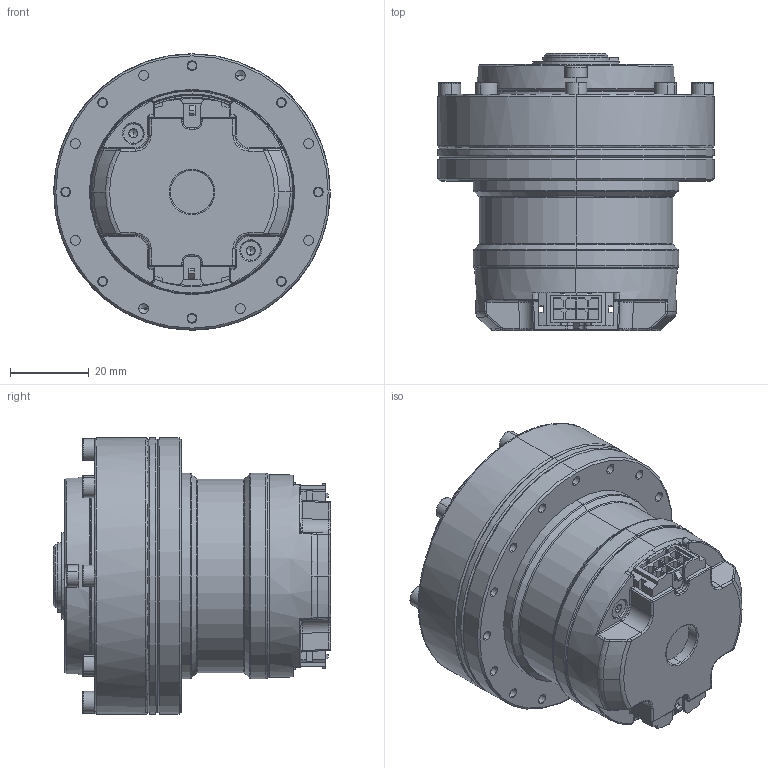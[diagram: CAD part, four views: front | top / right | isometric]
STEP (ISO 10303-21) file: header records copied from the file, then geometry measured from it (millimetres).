
FILE_DESCRIPTION (( 'STEP AP214' ), '1' );
FILE_NAME ('QddPro_3510_51_703D_v2.2.0.STEP', '2019-05-07T08:08:35', ( 'Microsoft' ), ( 'Microsoft' ), 'SwSTEP 2.0', 'SolidWorks 2018', '' );
FILE_SCHEMA (( 'AUTOMOTIVE_DESIGN' ));
Length unit declared in the file: millimetre
Products named in the file (1): QddPro_3510_51_703D_v2.2.0
Bounding box: 70 x 70.23 x 70 mm (x, y, z)
Volume: 133743.5 mm3; surface area: 84776.9 mm2
Topology: 117 solids, 117 shells, 2589 faces, 6101 edges, 3780 vertices
Faces by surface type: plane 1357, cylinder 615, cone 380, bspline 152, torus 80, sphere 5
Entity records: 115379 total; most frequent: CARTESIAN_POINT 28888, ORIENTED_EDGE 12078, DIRECTION 10803, EDGE_CURVE 6039, VERTEX_POINT 3780, LINE 3651, VECTOR 3651, AXIS2_PLACEMENT_3D 3576
